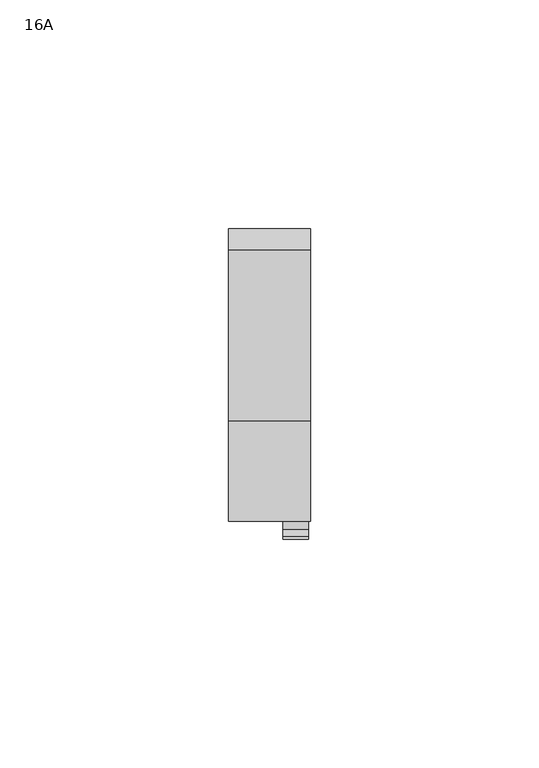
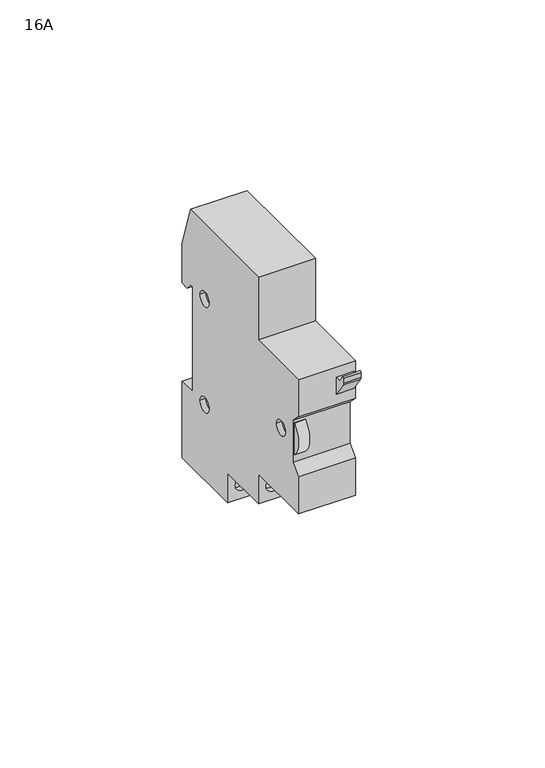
"""IFC4 building model written with IfcOpenShell, lengths in millimetres: proxy geometry, TDM_ТАЙМЕР ЛЕСТНИЧНЫЙ СЕРИИ ТЛ : 16A."""

from ifc_helpers import new_model, si_unit, point, frame, frame_2d, origin, place, context, project, spatial, polyline, circle_curve, trimmed, segment, composite_curve, outline, extrude, source, transform, mapped, element, save
from ifc_brep_helpers import plane_surface, revolved_surface, advanced_brep


def proxy_16a_e966da29(model_context):
    return source(origin(), model_context, "Body", "SolidModel", [
        extrude(outline(composite_curve([segment(trimmed(circle_curve(frame_2d((-28.0137215, -4.3311076)), 2.2596338), [point((-28.0137215, -6.5907414))], [point((-28.0137215, -2.0714738))], False, "CARTESIAN"), True, "CONTINUOUS"), segment(trimmed(circle_curve(frame_2d((-28.0137215, -4.3311076)), 2.2596338), [point((-28.0137215, -2.0714738))], [point((-28.0137215, -6.5907414))], False, "CARTESIAN"), True, "CONTINUOUS")], self_intersect=False)), frame((0.0, -2.559294, 0.0), z_axis=(0.0, 1.0, 0.0), x_axis=(0.0, 0.0, 1.0)), (0.0, 0.0, 1.0), 1.5491094),
        extrude(outline(composite_curve([segment(trimmed(circle_curve(frame_2d((-28.0137215, 4.3311076)), 2.2596338), [point((-28.0137215, 2.0714738))], [point((-28.0137215, 6.5907414))], False, "CARTESIAN"), True, "CONTINUOUS"), segment(trimmed(circle_curve(frame_2d((-28.0137215, 4.3311076)), 2.2596338), [point((-28.0137215, 6.5907414))], [point((-28.0137215, 2.0714738))], False, "CARTESIAN"), True, "CONTINUOUS")], self_intersect=False)), frame((0.0, -2.559294, 0.0), z_axis=(0.0, 1.0, 0.0), x_axis=(0.0, 0.0, 1.0)), (0.0, 0.0, 1.0), 1.5491094),
        extrude(outline(composite_curve([segment(trimmed(circle_curve(frame_2d((-38.0137215, -4.3311076)), 2.2596338), [point((-38.0137215, -6.5907414))], [point((-38.0137215, -2.0714738))], False, "CARTESIAN"), True, "CONTINUOUS"), segment(trimmed(circle_curve(frame_2d((-38.0137215, -4.3311076)), 2.2596338), [point((-38.0137215, -2.0714738))], [point((-38.0137215, -6.5907414))], False, "CARTESIAN"), True, "CONTINUOUS")], self_intersect=False)), frame((0.0, 14.2878947, 0.0), z_axis=(0.0, 1.0, 0.0), x_axis=(0.0, 0.0, 1.0)), (0.0, 0.0, 1.0), 1.5559218),
        extrude(outline(composite_curve([segment(trimmed(circle_curve(frame_2d((-38.0137215, 4.3311076)), 2.2596338), [point((-38.0137215, 2.0714738))], [point((-38.0137215, 6.5907414))], False, "CARTESIAN"), True, "CONTINUOUS"), segment(trimmed(circle_curve(frame_2d((-38.0137215, 4.3311076)), 2.2596338), [point((-38.0137215, 6.5907414))], [point((-38.0137215, 2.0714738))], False, "CARTESIAN"), True, "CONTINUOUS")], self_intersect=False)), frame((0.0, 14.2878947, 0.0), z_axis=(0.0, 1.0, 0.0), x_axis=(0.0, 0.0, 1.0)), (0.0, 0.0, 1.0), 1.5559218),
        extrude(outline(polyline([(0.0, 29.0139162), (0.0, 34.0139162), (6.0, 34.0139162), (6.0, 29.0139162), (0.0, 29.0139162)])), frame((0.0, 0.0, -44.6609356), z_axis=(0.0, 0.0, 1.0), x_axis=(1.0, 0.0, 0.0)), (0.0, 0.0, 1.0), 1.6609356),
        extrude(outline(polyline([(-1.1062628, 22.9569592), (31.5449434, 22.9569592), (31.5449434, -22.8185394), (-2.559294, -22.8185394), (-2.559294, -20.9090084), (-21.1062628, -20.9090084), (-21.1062628, 19.0909916), (-1.1062628, 19.0909916), (-1.1062628, 22.9569592)])), frame((-7.0, 0.0, 0.0), z_axis=(1.0, 0.0, 0.0), x_axis=(0.0, 1.0, 0.0)), (0.0, 0.0, 1.0), 14.0),
        extrude(outline(composite_curve([segment(polyline([(-29.878164, 20.7905098), (-28.3397266, 18.5933935), (-26.5, 18.5933935), (-26.5, 12.8886657), (-30.2595641, 18.2578797)]), True, "CONTINUOUS"), segment(trimmed(circle_curve(frame_2d((-29.1705082, 19.0204448)), 1.3294918), [point((-30.2595641, 18.2578797))], [point((-30.5, 19.0204448))], False, "CARTESIAN"), True, "CONTINUOUS"), segment(polyline([(-30.5, 19.0204448), (-30.5, 20.5944456)]), True, "CONTINUOUS"), segment(trimmed(circle_curve(frame_2d((-30.1581726, 20.5944456)), 0.3418274), [point((-30.5, 20.5944456))], [point((-29.878164, 20.7905098))], False, "CARTESIAN"), True, "CONTINUOUS")], self_intersect=False)), frame((3.0, 0.0, 0.0), z_axis=(1.0, 0.0, 0.0), x_axis=(0.0, 1.0, 0.0)), (0.0, 0.0, 1.0), 5.5),
        extrude(outline(composite_curve([segment(polyline([(-23.2941539, 5.3212674), (-21.826845, 5.3212674), (-21.826845, -5.3212674), (-23.2859022, -5.3212674)]), True, "CONTINUOUS"), segment(trimmed(circle_curve(frame_2d((-18.4463338, 0.0037556)), 7.1956439), [point((-23.2859022, -5.3212674))], [point((-23.2941539, 5.3212674))], False, "CARTESIAN"), True, "CONTINUOUS")], self_intersect=False)), frame((-8.5, 0.0, 0.0), z_axis=(1.0, 0.0, 0.0), x_axis=(0.0, 1.0, 0.0)), (0.0, 0.0, 1.0), 3.5),
        advanced_brep(
        [(9.0, 31.7632568, 17.7057143), (9.0, 32.8315001, 17.7057143), (9.0, 34.6361075, 15.5550671), (9.0, 37.5, 15.5550671), (9.0, 37.5, 28.7350671), (9.0, 32.8650423, 43.0), (9.0, -4.5, 43.0), (9.0, -4.5, 22.0), (9.0, -26.5, 22.0), (9.0, -26.5, 9.5), (9.0, -23.5, 6.5), (9.0, -23.5, -7.5), (9.0, -26.5, -10.5), (9.0, -26.5, -23.0), (9.0, -4.5, -23.0), (9.0, -4.5, -33.0), (9.0, 12.5, -33.0), (9.0, 12.5, -43.0), (9.0, 37.5, -43.0), (9.0, 37.5, -17.2942857), (9.0, 31.7632568, -17.2942857), (9.0, -14.4601392, 0.0), (9.0, -19.3781615, 0.0), (9.0, 27.5723877, 17.7057143), (9.0, 22.6543655, 17.7057143), (9.0, 27.5723877, -17.7057143), (9.0, 22.6543655, -17.7057143), (-9.0, 31.7632568, 17.7057143), (-9.0, 31.7632568, -17.2942857), (-9.0, 37.5, -17.2942857), (-9.0, 37.5, -43.0), (-9.0, 12.5, -43.0), (-9.0, 12.5, -33.0), (-9.0, -4.5, -33.0), (-9.0, -4.5, -23.0), (-9.0, -26.5, -23.0), (-9.0, -26.5, -10.5), (-9.0, -23.5, -7.5), (-9.0, -23.5, 6.5), (-9.0, -26.5, 9.5), (-9.0, -26.5, 22.0), (-9.0, -4.5, 22.0), (-9.0, -4.5, 43.0), (-9.0, 32.8650423, 43.0), (-9.0, 37.5, 28.7350671), (-9.0, 37.5, 15.5550671), (-9.0, 34.6361075, 15.5550671), (-9.0, 32.8315001, 17.7057143), (-9.0, -14.4601392, 0.0), (-9.0, -19.3781615, 0.0), (-9.0, 27.5723877, 17.7057143), (-9.0, 22.6543655, 17.7057143), (-9.0, 27.5723877, -17.7057143), (-9.0, 22.6543655, -17.7057143), (-6.5907414, -1.0101846, -28.0137215), (-2.0714738, -1.0101846, -28.0137215), (6.5907414, -1.0101846, -28.0137215), (2.0714738, -1.0101846, -28.0137215), (0.0, 29.0139162, -43.0), (0.0, 29.0139162, -44.6609356), (0.0, 34.0139162, -44.6609356), (0.0, 34.0139162, -43.0), (-6.0, 34.0139162, -43.0), (-6.0, 34.0139162, -44.6609356), (-6.0, 29.0139162, -44.6609356), (-6.0, 29.0139162, -43.0), (-2.0714738, -4.5, -28.0137215), (-6.5907414, -4.5, -28.0137215), (2.0714738, -4.5, -28.0137215), (6.5907414, -4.5, -28.0137215), (-2.0714738, 12.5, -38.0137215), (-6.5907414, 12.5, -38.0137215), (2.0714738, 12.5, -38.0137215), (6.5907414, 12.5, -38.0137215), (-6.5907414, 15.8438165, -38.0137215), (-2.0714738, 15.8438165, -38.0137215), (6.5907414, 15.8438165, -38.0137215), (2.0714738, 15.8438165, -38.0137215)],
        [
            (0, 1),
            (1, 2),
            (2, 3),
            (3, 4),
            (4, 5),
            (5, 6),
            (6, 7),
            (7, 8),
            (8, 9),
            (9, 10),
            (10, 11),
            (11, 12),
            (12, 13),
            (13, 14),
            (14, 15),
            (15, 16),
            (16, 17),
            (17, 18),
            (18, 19),
            (19, 20),
            (20, 0),
            (21, 22, circle_curve(frame((9.0, -16.9191504, 0.0), z_axis=(-1.0, 0.0, 0.0), x_axis=(0.0, -1.0, 0.0)), 2.4590111)),
            (22, 21, circle_curve(frame((9.0, -16.9191504, 0.0), z_axis=(-1.0, 0.0, 0.0), x_axis=(0.0, -1.0, 0.0)), 2.4590111)),
            (23, 24, circle_curve(frame((9.0, 25.1133766, 17.7057143), z_axis=(-1.0, 0.0, 0.0), x_axis=(0.0, -1.0, 0.0)), 2.4590111)),
            (24, 23, circle_curve(frame((9.0, 25.1133766, 17.7057143), z_axis=(-1.0, 0.0, 0.0), x_axis=(0.0, -1.0, 0.0)), 2.4590111)),
            (25, 26, circle_curve(frame((9.0, 25.1133766, -17.7057143), z_axis=(-1.0, 0.0, 0.0), x_axis=(0.0, -1.0, 0.0)), 2.4590111)),
            (26, 25, circle_curve(frame((9.0, 25.1133766, -17.7057143), z_axis=(-1.0, 0.0, 0.0), x_axis=(0.0, -1.0, 0.0)), 2.4590111)),
            (27, 28),
            (28, 29),
            (29, 30),
            (30, 31),
            (31, 32),
            (32, 33),
            (33, 34),
            (34, 35),
            (35, 36),
            (36, 37),
            (37, 38),
            (38, 39),
            (39, 40),
            (40, 41),
            (41, 42),
            (42, 43),
            (43, 44),
            (44, 45),
            (45, 46),
            (46, 47),
            (47, 27),
            (48, 49, circle_curve(frame((-9.0, -16.9191504, 0.0), z_axis=(1.0, 0.0, 0.0), x_axis=(0.0, -1.0, 0.0)), 2.4590111)),
            (49, 48, circle_curve(frame((-9.0, -16.9191504, 0.0), z_axis=(1.0, 0.0, 0.0), x_axis=(0.0, -1.0, 0.0)), 2.4590111)),
            (50, 51, circle_curve(frame((-9.0, 25.1133766, 17.7057143), z_axis=(1.0, 0.0, 0.0), x_axis=(0.0, -1.0, 0.0)), 2.4590111)),
            (51, 50, circle_curve(frame((-9.0, 25.1133766, 17.7057143), z_axis=(1.0, 0.0, 0.0), x_axis=(0.0, -1.0, 0.0)), 2.4590111)),
            (52, 53, circle_curve(frame((-9.0, 25.1133766, -17.7057143), z_axis=(1.0, 0.0, 0.0), x_axis=(0.0, -1.0, 0.0)), 2.4590111)),
            (53, 52, circle_curve(frame((-9.0, 25.1133766, -17.7057143), z_axis=(1.0, 0.0, 0.0), x_axis=(0.0, -1.0, 0.0)), 2.4590111)),
            (21, 48),
            (49, 22),
            (54, 55, circle_curve(frame((-4.3311076, -1.0101846, -28.0137215), z_axis=(0.0, -1.0, 0.0), x_axis=(1.0, 0.0, 0.0)), 2.2596338)),
            (55, 54, circle_curve(frame((-4.3311076, -1.0101846, -28.0137215), z_axis=(0.0, -1.0, 0.0), x_axis=(1.0, 0.0, 0.0)), 2.2596338)),
            (56, 57, circle_curve(frame((4.3311076, -1.0101846, -28.0137215), z_axis=(0.0, -1.0, 0.0), x_axis=(-1.0, 0.0, 0.0)), 2.2596338)),
            (57, 56, circle_curve(frame((4.3311076, -1.0101846, -28.0137215), z_axis=(0.0, -1.0, 0.0), x_axis=(-1.0, 0.0, 0.0)), 2.2596338)),
            (58, 59),
            (59, 60),
            (60, 61),
            (61, 58),
            (62, 63),
            (63, 64),
            (64, 65),
            (65, 62),
            (0, 27),
            (47, 1),
            (46, 2),
            (45, 3),
            (44, 4),
            (43, 5),
            (42, 6),
            (41, 7),
            (40, 8),
            (39, 9),
            (38, 10),
            (37, 11),
            (36, 12),
            (35, 13),
            (34, 14),
            (33, 15),
            (66, 67, circle_curve(frame((-4.3311076, -4.5, -28.0137215), z_axis=(0.0, 1.0, 0.0), x_axis=(1.0, 0.0, 0.0)), 2.2596338)),
            (67, 66, circle_curve(frame((-4.3311076, -4.5, -28.0137215), z_axis=(0.0, 1.0, 0.0), x_axis=(1.0, 0.0, 0.0)), 2.2596338)),
            (68, 69, circle_curve(frame((4.3311076, -4.5, -28.0137215), z_axis=(0.0, 1.0, 0.0), x_axis=(-1.0, 0.0, 0.0)), 2.2596338)),
            (69, 68, circle_curve(frame((4.3311076, -4.5, -28.0137215), z_axis=(0.0, 1.0, 0.0), x_axis=(-1.0, 0.0, 0.0)), 2.2596338)),
            (32, 16),
            (31, 17),
            (70, 71, circle_curve(frame((-4.3311076, 12.5, -38.0137215), z_axis=(0.0, 1.0, 0.0), x_axis=(1.0, 0.0, 0.0)), 2.2596338)),
            (71, 70, circle_curve(frame((-4.3311076, 12.5, -38.0137215), z_axis=(0.0, 1.0, 0.0), x_axis=(1.0, 0.0, 0.0)), 2.2596338)),
            (72, 73, circle_curve(frame((4.3311076, 12.5, -38.0137215), z_axis=(0.0, 1.0, 0.0), x_axis=(-1.0, 0.0, 0.0)), 2.2596338)),
            (73, 72, circle_curve(frame((4.3311076, 12.5, -38.0137215), z_axis=(0.0, 1.0, 0.0), x_axis=(-1.0, 0.0, 0.0)), 2.2596338)),
            (30, 18),
            (61, 62),
            (65, 58),
            (29, 19),
            (28, 20),
            (23, 50),
            (51, 24),
            (25, 52),
            (53, 26),
            (64, 59),
            (63, 60),
            (54, 67),
            (66, 55),
            (56, 69),
            (68, 57),
            (74, 75, circle_curve(frame((-4.3311076, 15.8438165, -38.0137215), z_axis=(0.0, -1.0, 0.0), x_axis=(1.0, 0.0, 0.0)), 2.2596338)),
            (75, 74, circle_curve(frame((-4.3311076, 15.8438165, -38.0137215), z_axis=(0.0, -1.0, 0.0), x_axis=(1.0, 0.0, 0.0)), 2.2596338)),
            (76, 77, circle_curve(frame((4.3311076, 15.8438165, -38.0137215), z_axis=(0.0, -1.0, 0.0), x_axis=(-1.0, 0.0, 0.0)), 2.2596338)),
            (77, 76, circle_curve(frame((4.3311076, 15.8438165, -38.0137215), z_axis=(0.0, -1.0, 0.0), x_axis=(-1.0, 0.0, 0.0)), 2.2596338)),
            (74, 71),
            (70, 75),
            (76, 73),
            (72, 77),
        ],
        [
            plane_surface(frame((9.0, -19.3781615, 0.0), z_axis=(1.0, 0.0, 0.0), x_axis=(0.0, 0.0, 1.0))),
            plane_surface(frame((-9.0, -19.3781615, 0.0), z_axis=(-1.0, 0.0, 0.0), x_axis=(0.0, 0.0, -1.0))),
            revolved_surface(polyline([(-9.0, -19.3781615, 0.0), (9.0, -19.3781615, 0.0)]), (-9.0, -16.9191504, 0.0), (-1.0, 0.0, 0.0)),
            plane_surface(frame((-2.0714738, -1.0101846, -28.0137215), z_axis=(0.0, -1.0, 0.0), x_axis=(0.0, 0.0, -1.0))),
            plane_surface(frame((0.0, 29.0139162, -43.0), z_axis=(1.0, 0.0, 0.0), x_axis=(0.0, 0.0, -1.0))),
            plane_surface(frame((-6.0, 29.0139162, -43.0), z_axis=(-1.0, 0.0, 0.0), x_axis=(0.0, 0.0, 1.0))),
            plane_surface(frame((9.0, 31.7632568, 17.7057143), z_axis=(0.0, 0.0, -1.0), x_axis=(-1.0, 0.0, 0.0))),
            plane_surface(frame((9.0, 32.8315001, 17.7057143), z_axis=(0.0, -0.7660444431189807, -0.6427876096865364), x_axis=(-1.0, 0.0, 0.0))),
            plane_surface(frame((9.0, 34.6361075, 15.5550671), z_axis=(0.0, 0.0, -1.0), x_axis=(-1.0, 0.0, 0.0))),
            plane_surface(frame((9.0, 37.5, 15.5550671), z_axis=(0.0, 1.0, 0.0), x_axis=(-1.0, 0.0, 0.0))),
            plane_surface(frame((9.0, 37.5, 28.7350671), z_axis=(0.0, 0.9510565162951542, 0.30901699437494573), x_axis=(-1.0, 0.0, 0.0))),
            plane_surface(frame((9.0, 32.8650423, 43.0), z_axis=(0.0, 0.0, 1.0), x_axis=(-1.0, 0.0, 0.0))),
            plane_surface(frame((9.0, -4.5, 43.0), z_axis=(0.0, -1.0, 0.0), x_axis=(-1.0, 0.0, 0.0))),
            plane_surface(frame((9.0, -4.5, 22.0), z_axis=(0.0, 0.0, 1.0), x_axis=(-1.0, 0.0, 0.0))),
            plane_surface(frame((9.0, -26.5, 22.0), z_axis=(0.0, -1.0, 0.0), x_axis=(-1.0, 0.0, 0.0))),
            plane_surface(frame((9.0, -26.5, 9.5), z_axis=(0.0, -0.707106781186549, -0.707106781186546), x_axis=(-1.0, 0.0, 0.0))),
            plane_surface(frame((9.0, -23.5, 6.5), z_axis=(0.0, -1.0, 0.0), x_axis=(-1.0, 0.0, 0.0))),
            plane_surface(frame((9.0, -23.5, -7.5), z_axis=(0.0, -0.7071067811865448, 0.7071067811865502), x_axis=(-1.0, 0.0, 0.0))),
            plane_surface(frame((9.0, -26.5, -10.5), z_axis=(0.0, -1.0, 0.0), x_axis=(-1.0, 0.0, 0.0))),
            plane_surface(frame((9.0, -26.5, -23.0), z_axis=(0.0, 0.0, -1.0), x_axis=(-1.0, 0.0, 0.0))),
            plane_surface(frame((9.0, -4.5, -23.0), z_axis=(0.0, -1.0, 0.0), x_axis=(-1.0, 0.0, 0.0))),
            plane_surface(frame((9.0, -4.5, -33.0), z_axis=(0.0, 0.0, -1.0), x_axis=(-1.0, 0.0, 0.0))),
            plane_surface(frame((9.0, 12.5, -33.0), z_axis=(0.0, -1.0, 0.0), x_axis=(-1.0, 0.0, 0.0))),
            plane_surface(frame((9.0, 12.5, -43.0), z_axis=(0.0, 0.0, -1.0), x_axis=(-1.0, 0.0, 0.0))),
            plane_surface(frame((9.0, 37.5, -43.0), z_axis=(0.0, 1.0, 0.0), x_axis=(-1.0, 0.0, 0.0))),
            plane_surface(frame((9.0, 37.5, -17.2942857), z_axis=(0.0, 0.0, 1.0), x_axis=(-1.0, 0.0, 0.0))),
            plane_surface(frame((9.0, 31.7632568, -17.2942857), z_axis=(0.0, 1.0, 0.0), x_axis=(-1.0, 0.0, 0.0))),
            revolved_surface(polyline([(-9.0, 22.654365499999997, 17.7057143), (9.0, 22.654365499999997, 17.7057143)]), (0.0, 25.1133766, 17.7057143), (-1.0, 0.0, 0.0)),
            revolved_surface(polyline([(-9.0, 22.654365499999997, -17.7057143), (9.0, 22.654365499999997, -17.7057143)]), (0.0, 25.1133766, -17.7057143), (-1.0, 0.0, 0.0)),
            plane_surface(frame((0.0, 29.0139162, -43.0), z_axis=(0.0, -1.0, 0.0), x_axis=(-1.0, 0.0, 0.0))),
            plane_surface(frame((0.0, 29.0139162, -44.6609356), z_axis=(0.0, 0.0, -1.0), x_axis=(-1.0, 0.0, 0.0))),
            plane_surface(frame((0.0, 34.0139162, -44.6609356), z_axis=(0.0, 1.0, 0.0), x_axis=(-1.0, 0.0, 0.0))),
            revolved_surface(polyline([(-2.0714738, -4.5, -28.0137215), (-2.0714738, -1.0101846, -28.0137215)]), (-4.3311076, -1.0101846, -28.0137215), (0.0, -1.0, 0.0)),
            revolved_surface(polyline([(2.0714738, -4.5, -28.0137215), (2.0714738, -1.0101846, -28.0137215)]), (4.3311076, 0.0, -28.0137215), (0.0, -1.0, 0.0)),
            plane_surface(frame((-2.0714738, 15.8438165, -38.0137215), z_axis=(0.0, -1.0, 0.0), x_axis=(0.0, 0.0, -1.0))),
            revolved_surface(polyline([(-2.0714738, 12.5, -38.0137215), (-2.0714738, 15.8438165, -38.0137215)]), (-4.3311076, 15.8438165, -38.0137215), (0.0, -1.0, 0.0)),
            revolved_surface(polyline([(2.0714738, 12.5, -38.0137215), (2.0714738, 15.8438165, -38.0137215)]), (4.3311076, 0.0, -38.0137215), (0.0, -1.0, 0.0)),
        ],
        [
            (0, [[1, 2, 3, 4, 5, 6, 7, 8, 9, 10, 11, 12, 13, 14, 15, 16, 17, 18, 19, 20, 21], [22, 23], [24, 25], [26, 27]]),
            (1, [[28, 29, 30, 31, 32, 33, 34, 35, 36, 37, 38, 39, 40, 41, 42, 43, 44, 45, 46, 47, 48], [49, 50], [51, 52], [53, 54]]),
            (2, [[-22, 55, -50, 56]]),
            (2, [[-23, -56, -49, -55]]),
            (3, [[57, 58]]),
            (3, [[59, 60]]),
            (4, [[61, 62, 63, 64]]),
            (5, [[65, 66, 67, 68]]),
            (6, [[-1, 69, -48, 70]]),
            (7, [[-2, -70, -47, 71]]),
            (8, [[-3, -71, -46, 72]]),
            (9, [[-4, -72, -45, 73]]),
            (10, [[-5, -73, -44, 74]]),
            (11, [[-6, -74, -43, 75]]),
            (12, [[-7, -75, -42, 76]]),
            (13, [[-8, -76, -41, 77]]),
            (14, [[-9, -77, -40, 78]]),
            (15, [[-10, -78, -39, 79]]),
            (16, [[-11, -79, -38, 80]]),
            (17, [[-12, -80, -37, 81]]),
            (18, [[-13, -81, -36, 82]]),
            (19, [[-14, -82, -35, 83]]),
            (20, [[-15, -83, -34, 84], [85, 86], [87, 88]]),
            (21, [[-16, -84, -33, 89]]),
            (22, [[-17, -89, -32, 90], [91, 92], [93, 94]]),
            (23, [[-18, -90, -31, 95], [-64, 96, -68, 97]]),
            (24, [[-19, -95, -30, 98]]),
            (25, [[-20, -98, -29, 99]]),
            (26, [[-21, -99, -28, -69]]),
            (27, [[-24, 100, -52, 101]]),
            (27, [[-25, -101, -51, -100]]),
            (28, [[-26, 102, -54, 103]]),
            (28, [[-27, -103, -53, -102]]),
            (29, [[-61, -97, -67, 104]]),
            (30, [[-62, -104, -66, 105]]),
            (31, [[-63, -105, -65, -96]]),
            (32, [[-57, 106, -85, 107]]),
            (32, [[-58, -107, -86, -106]]),
            (33, [[-59, 108, -87, 109]]),
            (33, [[-60, -109, -88, -108]]),
            (34, [[110, 111]]),
            (34, [[112, 113]]),
            (35, [[-110, 114, -91, 115]]),
            (35, [[-111, -115, -92, -114]]),
            (36, [[-112, 116, -93, 117]]),
            (36, [[-113, -117, -94, -116]]),
        ],
    ),
    ])


if __name__ == "__main__":
    model = new_model("IFC4")
    model_context = context("Model", 3, world=origin())
    ifc_project = project(units=[si_unit("LENGTHUNIT", "METRE", prefix="MILLI")], contexts=[model_context])
    site = spatial("IfcSite", under=ifc_project)
    building = spatial("IfcBuilding", under=site)
    placement = place(None, origin())
    proxy_16a_shape = proxy_16a_e966da29(model_context)
    element("IfcBuildingElementProxy", 1, Name="TDM_ТАЙМЕР ЛЕСТНИЧНЫЙ СЕРИИ ТЛ : 16A", ObjectType="TDM_ТАЙМЕР ЛЕСТНИЧНЫЙ СЕРИИ ТЛ : 16A", at=placement, inside=building, context=model_context, shape_type="MappedRepresentation", body=[
        mapped(proxy_16a_shape, transform((0.0, 0.0, 0.0), x_axis=(1.0, 0.0, 0.0), y_axis=(0.0, 1.0, 0.0), z_axis=(0.0, 0.0, 1.0))),
    ])
    save(model, "model.ifc")
